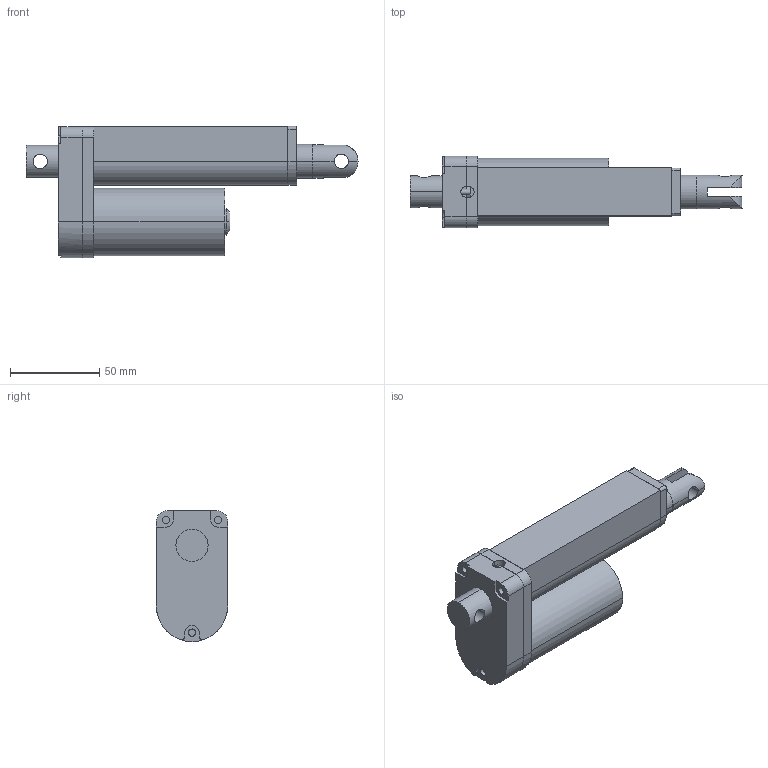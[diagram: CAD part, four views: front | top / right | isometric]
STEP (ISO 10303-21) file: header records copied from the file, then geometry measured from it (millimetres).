
FILE_DESCRIPTION((''),'2;1');
FILE_NAME('LAS-S100_ASM','2007-07-11T',('amyliao'),(''),'PRO/ENGINEER BY PARAMETRIC TECHNOLOGY CORPORATION, 2003210','PRO/ENGINEER BY PARAMETRIC TECHNOLOGY CORPORATION, 2003210','');
FILE_SCHEMA(('CONFIG_CONTROL_DESIGN'));
Length unit declared in the file: millimetre
Products named in the file (8): GEAR02; GEAR01; OUT-TUB; 1; LAS-IN-TUB_100; LAS-IN-PLUG; LAS-MOTOR; LAS-S100_ASM
Assembly tree (7 placements, depth 2):
  LAS-S100_ASM
    GEAR02
    GEAR01
    OUT-TUB
    1
    LAS-IN-TUB_100
    LAS-IN-PLUG
    LAS-MOTOR
Bounding box: 186.4 x 40 x 73.6 mm (x, y, z)
Volume: 156007.2 mm3; surface area: 71074.3 mm2
Topology: 7 solids, 7 shells, 150 faces, 393 edges, 260 vertices
Faces by surface type: cylinder 77, plane 71, cone 2
Entity records: 5111 total; most frequent: CARTESIAN_POINT 1030, DIRECTION 861, ORIENTED_EDGE 786, EDGE_CURVE 393, AXIS2_PLACEMENT_3D 315, VERTEX_POINT 260, VECTOR 231, LINE 231
